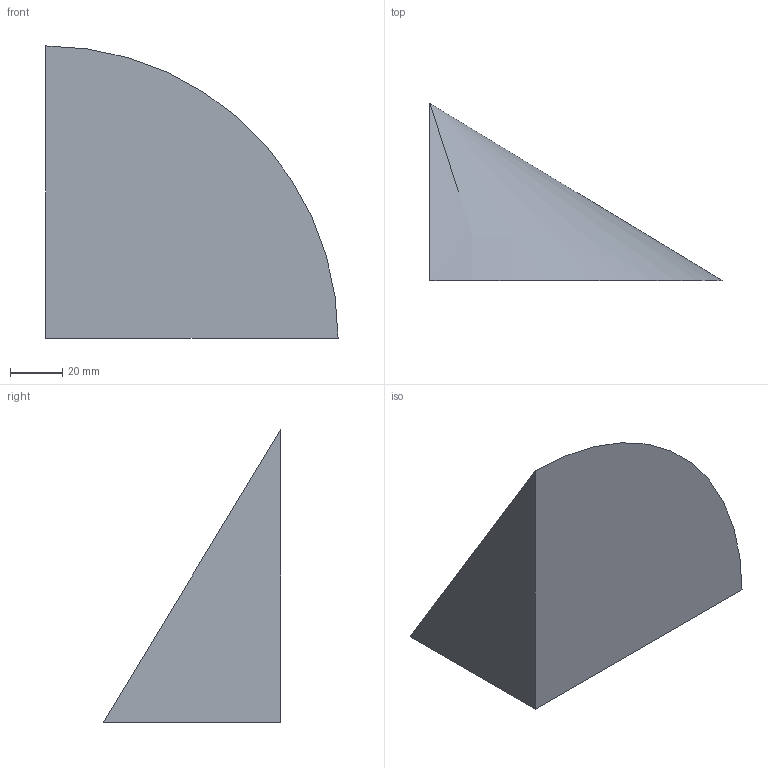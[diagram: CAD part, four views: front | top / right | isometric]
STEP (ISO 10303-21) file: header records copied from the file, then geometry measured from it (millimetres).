
FILE_DESCRIPTION(('CATIA V5 STEP Exchange'),'2;1');
FILE_NAME('C:\_Andres\UNIVERSIDAD\IQS\ASIGNATURAS\DAO\EXF\EXF-16172c\2inicio\Esteba_Torres_Ej07_v12.stp','2017-03-05T21:18:12+00:00',('none'),('none'),'CATIA Version 5-6 Release 2014 SP1 HF18','CATIA V5 STEP AP203','none');
FILE_SCHEMA(('CONFIG_CONTROL_DESIGN'));
Length unit declared in the file: millimetre
Products named in the file (1): Esteba_Torres_Ej07_v12
Bounding box: 112 x 68 x 112 mm (x, y, z)
Volume: 223312.8 mm3; surface area: 28993.7 mm2
Topology: 1 solids, 1 shells, 4 faces, 7 edges, 4 vertices
Faces by surface type: plane 3, cone 1
Entity records: 131 total; most frequent: CARTESIAN_POINT 15, DIRECTION 14, ORIENTED_EDGE 12, AXIS2_PLACEMENT_3D 6, EDGE_CURVE 6, VECTOR 5, LINE 5, ADVANCED_FACE 4
